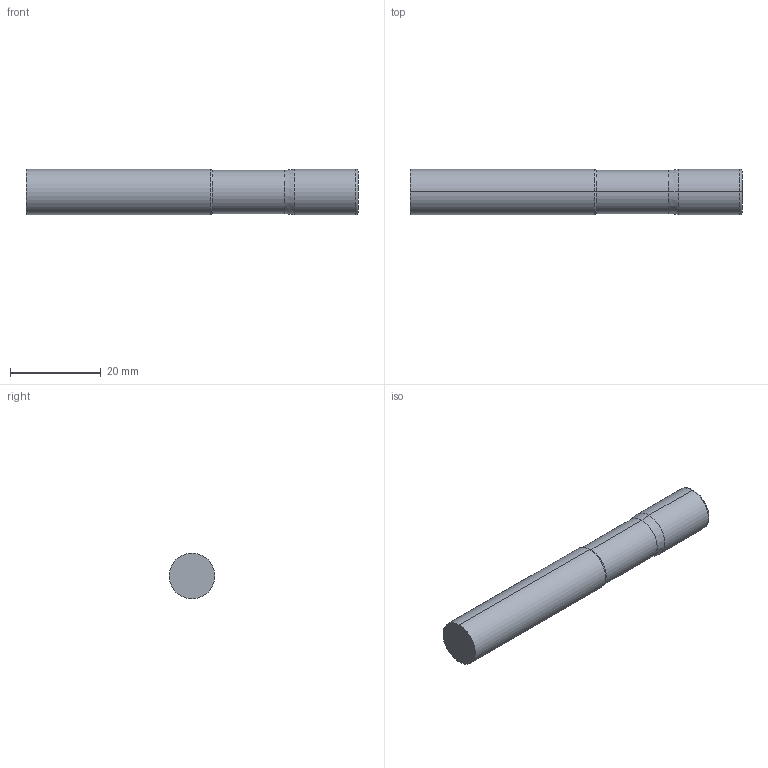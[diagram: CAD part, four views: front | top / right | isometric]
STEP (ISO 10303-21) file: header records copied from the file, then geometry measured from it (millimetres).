
FILE_DESCRIPTION (( 'STEP AP214' ), '1' );
FILE_NAME ('SSIRN510M-.5.STEP', '2025-05-29T13:28:31', ( '' ), ( '' ), 'SwSTEP 2.0', 'SolidWorks 2023', '' );
FILE_SCHEMA (( 'AUTOMOTIVE_DESIGN' ));
Length unit declared in the file: millimetre
Products named in the file (3): SSIRN510M-.5; SSI5 Metric SHANK_SSIRN510M-.5; SSI5 Metric CUTTING_SSIRN510M-.5
Assembly tree (2 placements, depth 2):
  SSIRN510M-.5
    SSI5 Metric CUTTING_SSIRN510M-.5
    SSI5 Metric SHANK_SSIRN510M-.5
Bounding box: 73 x 10 x 10 mm (x, y, z)
Volume: 5592.7 mm3; surface area: 2574.8 mm2
Topology: 2 solids, 2 shells, 16 faces, 28 edges, 16 vertices
Faces by surface type: cylinder 6, plane 4, cone 4, torus 2
Entity records: 474 total; most frequent: DIRECTION 88, CARTESIAN_POINT 65, ORIENTED_EDGE 56, AXIS2_PLACEMENT_3D 39, EDGE_CURVE 28, CIRCLE 18, EDGE_LOOP 16, ADVANCED_FACE 16
